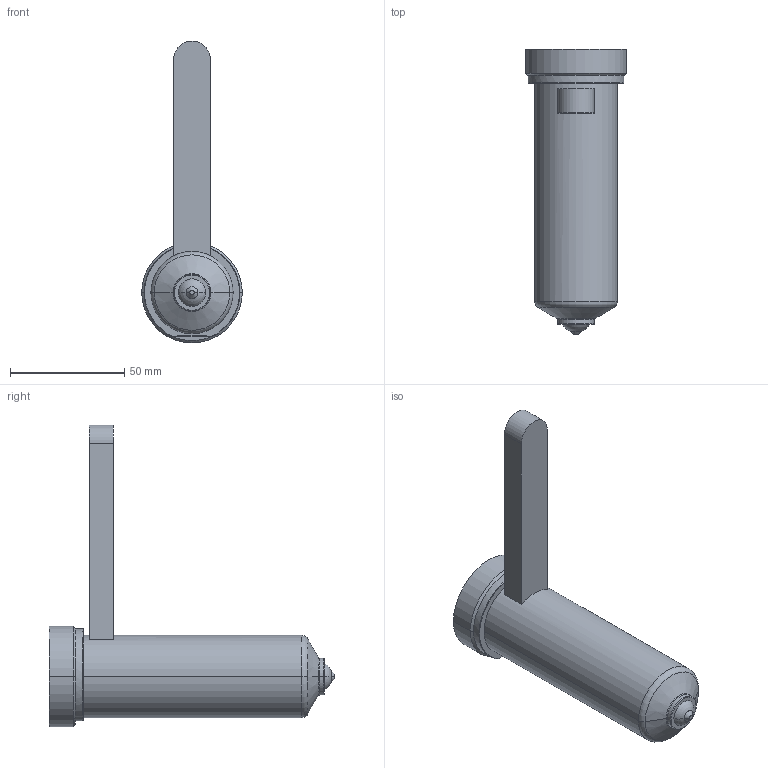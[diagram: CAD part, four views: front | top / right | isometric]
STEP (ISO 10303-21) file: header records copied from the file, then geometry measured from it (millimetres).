
FILE_DESCRIPTION((''),'2;1');
FILE_NAME('EO12_PG-BL_STD_110_COT','2024-02-19T11:12:16',('sundharh'),(''),'CREO PARAMETRIC BY PTC INC, 2023154','CREO PARAMETRIC BY PTC INC, 2023154','');
FILE_SCHEMA(('CONFIG_CONTROL_DESIGN'));
Length unit declared in the file: millimetre
Products named in the file (1): EO12_PG-BL_STD_110_COT
Bounding box: 44 x 125 x 132 mm (x, y, z)
Volume: 140307.2 mm3; surface area: 21040.4 mm2
Topology: 1 solids, 1 shells, 40 faces, 85 edges, 50 vertices
Faces by surface type: cylinder 13, plane 10, torus 9, cone 6, sphere 2
Entity records: 1185 total; most frequent: CARTESIAN_POINT 255, DIRECTION 209, ORIENTED_EDGE 170, AXIS2_PLACEMENT_3D 90, EDGE_CURVE 85, VERTEX_POINT 50, CIRCLE 50, EDGE_LOOP 43
